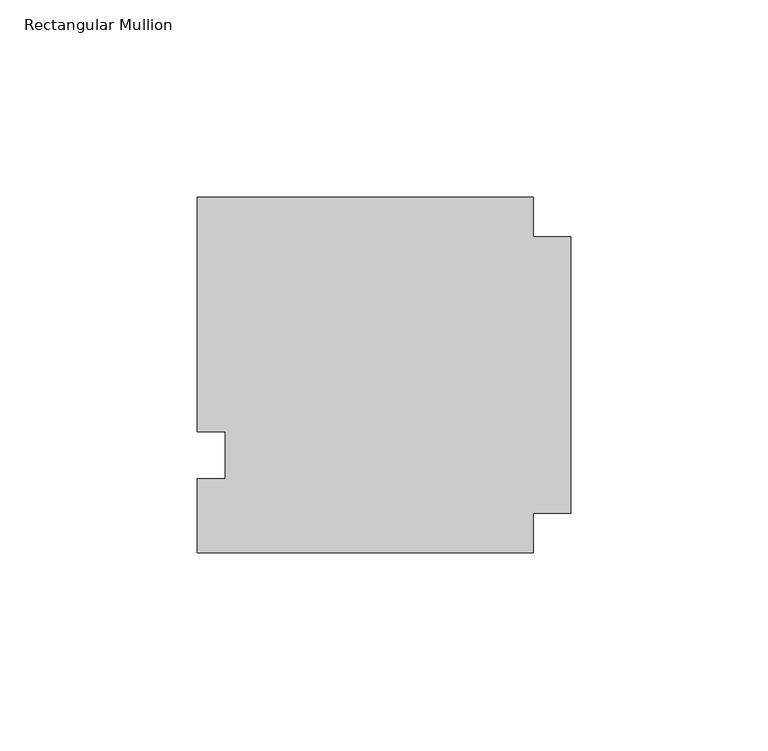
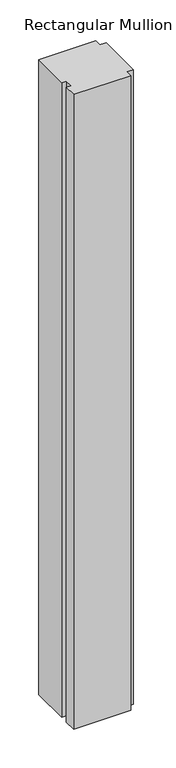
"""IFC4 building model written with IfcOpenShell, lengths in millimetres: member geometry, Rectangular Mullion : Klein_Nature_Profile-Top-Panel."""

from ifc_helpers import new_model, si_unit, frame, origin, place, context, project, spatial, polyline, outline, extrude, source, transform, mapped, element, save


def rectangular_mullion_59f20ab0(model_context):
    return source(origin(), model_context, "Body", "SweptSolid", [
        extrude(outline(polyline([(-94.4999952, 45.0000043), (-9.4999995, 44.9999981), (-9.5000002, 34.9999983), (0.0, 34.9999976), (-5.1e-06, -34.9999976), (-9.5000054, -34.9999969), (-9.5000061, -45.0000019), (-94.5000018, -44.9999957), (-94.5000005, -26.3000051), (-87.4999966, -26.3000046), (-87.4999975, -14.3000046), (-94.4999996, -14.3000051), (-94.4999952, 45.0000043)])), frame((0.0, 0.0, -1000.0000002), z_axis=(0.0, 0.0, 1.0), x_axis=(1.0, 0.0, 0.0)), (0.0, 0.0, 1.0), 1000.0000002),
    ])


if __name__ == "__main__":
    model = new_model("IFC4")
    model_context = context("Model", 3, world=origin())
    ifc_project = project(units=[si_unit("LENGTHUNIT", "METRE", prefix="MILLI")], contexts=[model_context])
    site = spatial("IfcSite", under=ifc_project)
    building = spatial("IfcBuilding", under=site)
    placement = place(None, origin())
    rectangular_mullion_shape = rectangular_mullion_59f20ab0(model_context)
    element("IfcMember", 1, ObjectType="Rectangular Mullion : Klein_Nature_Profile-Top-Panel", at=placement, inside=building, context=model_context, shape_type="MappedRepresentation", body=[
        mapped(rectangular_mullion_shape, transform((0.0, 0.0, 0.0), x_axis=(1.0, 0.0, 0.0), y_axis=(0.0, 1.0, 0.0), z_axis=(0.0, 0.0, 1.0))),
    ])
    save(model, "model.ifc")
